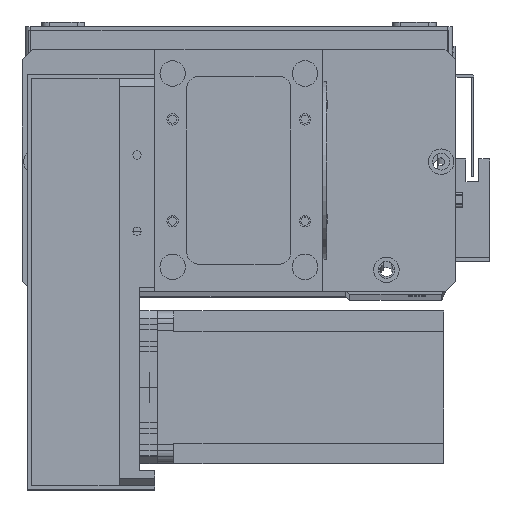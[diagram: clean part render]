
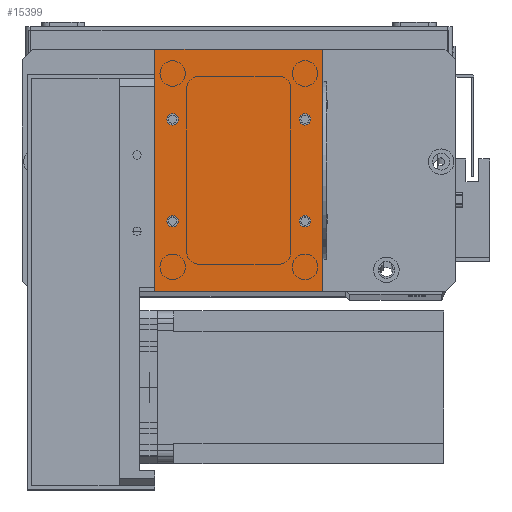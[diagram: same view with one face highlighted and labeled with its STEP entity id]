
A CAD part, top view. The second image highlights one B-rep face of the part: STEP entity #15399.
In plain terms, the highlighted planar face has unit normal (0, 0, 1).
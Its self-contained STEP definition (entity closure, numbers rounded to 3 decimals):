
#21 = VECTOR ( 'NONE', #9652, 1000. ) ;
#411 = CARTESIAN_POINT ( 'NONE',  ( 61.25, 67.5, 2. ) ) ;
#609 = CIRCLE ( 'NONE', #27779, 2.25 ) ;
#1104 = DIRECTION ( 'NONE',  ( 1., 0., 0. ) ) ;
#1213 = AXIS2_PLACEMENT_3D ( 'NONE', #31543, #16811, #1908 ) ;
#1284 = EDGE_CURVE ( 'NONE', #21014, #2072, #19991, .T. ) ;
#1378 = EDGE_LOOP ( 'NONE', ( #21991, #8370 ) ) ;
#1578 = CIRCLE ( 'NONE', #26634, 2.25 ) ;
#1908 = DIRECTION ( 'NONE',  ( 1., 0., 0. ) ) ;
#2072 = VERTEX_POINT ( 'NONE', #28145 ) ;
#2446 = VERTEX_POINT ( 'NONE', #411 ) ;
#3023 = DIRECTION ( 'NONE',  ( 0., 0., 1. ) ) ;
#3142 = CIRCLE ( 'NONE', #10236, 2.25 ) ;
#3192 = EDGE_CURVE ( 'NONE', #22847, #13835, #23329, .T. ) ;
#3842 = EDGE_CURVE ( 'NONE', #26094, #21014, #12825, .T. ) ;
#4010 = EDGE_CURVE ( 'NONE', #2446, #29409, #15547, .T. ) ;
#4050 = FACE_OUTER_BOUND ( 'NONE', #23702, .T. ) ;
#4071 = CARTESIAN_POINT ( 'NONE',  ( 56.75, 67.5, 2. ) ) ;
#4470 = VERTEX_POINT ( 'NONE', #19883 ) ;
#4764 = CARTESIAN_POINT ( 'NONE',  ( 9.25, 27.5, 2. ) ) ;
#4771 = DIRECTION ( 'NONE',  ( 1., 0., 0. ) ) ;
#4848 = FACE_BOUND ( 'NONE', #29404, .T. ) ;
#4977 = CARTESIAN_POINT ( 'NONE',  ( 59., 27.5, 2. ) ) ;
#5111 = CARTESIAN_POINT ( 'NONE',  ( 66., 0., 2. ) ) ;
#5209 = DIRECTION ( 'NONE',  ( 0., 1., 0. ) ) ;
#7368 = AXIS2_PLACEMENT_3D ( 'NONE', #27075, #12283, #29560 ) ;
#7465 = DIRECTION ( 'NONE',  ( 1., 0., 0. ) ) ;
#7639 = CIRCLE ( 'NONE', #7368, 2.25 ) ;
#8370 = ORIENTED_EDGE ( 'NONE', *, *, #19540, .F. ) ;
#8399 = ORIENTED_EDGE ( 'NONE', *, *, #1284, .T. ) ;
#8583 = CARTESIAN_POINT ( 'NONE',  ( 7., 67.5, 2. ) ) ;
#8795 = EDGE_CURVE ( 'NONE', #29409, #2446, #7639, .T. ) ;
#9006 = CIRCLE ( 'NONE', #17709, 2.25 ) ;
#9459 = VERTEX_POINT ( 'NONE', #9837 ) ;
#9652 = DIRECTION ( 'NONE',  ( 0., -1., 0. ) ) ;
#9837 = CARTESIAN_POINT ( 'NONE',  ( 4.75, 67.5, 2. ) ) ;
#10236 = AXIS2_PLACEMENT_3D ( 'NONE', #8583, #25922, #11115 ) ;
#10301 = CARTESIAN_POINT ( 'NONE',  ( 59., 27.5, 2. ) ) ;
#10430 = ORIENTED_EDGE ( 'NONE', *, *, #30573, .T. ) ;
#10688 = FACE_BOUND ( 'NONE', #12104, .T. ) ;
#11004 = AXIS2_PLACEMENT_3D ( 'NONE', #17974, #3023, #20434 ) ;
#11115 = DIRECTION ( 'NONE',  ( 1., 0., 0. ) ) ;
#11311 = DIRECTION ( 'NONE',  ( 0., 0., 1. ) ) ;
#11343 = VERTEX_POINT ( 'NONE', #19929 ) ;
#11952 = ORIENTED_EDGE ( 'NONE', *, *, #27308, .F. ) ;
#12104 = EDGE_LOOP ( 'NONE', ( #30924, #11952 ) ) ;
#12283 = DIRECTION ( 'NONE',  ( 0., 0., 1. ) ) ;
#12819 = DIRECTION ( 'NONE',  ( 1., 0., 0. ) ) ;
#12825 = LINE ( 'NONE', #19594, #31759 ) ;
#12872 = CARTESIAN_POINT ( 'NONE',  ( 0., 95., 2. ) ) ;
#13355 = VECTOR ( 'NONE', #5209, 1000. ) ;
#13550 = CIRCLE ( 'NONE', #23030, 2.25 ) ;
#13835 = VERTEX_POINT ( 'NONE', #18245 ) ;
#14504 = CARTESIAN_POINT ( 'NONE',  ( 56.75, 27.5, 2. ) ) ;
#15399 = ADVANCED_FACE ( 'NONE', ( #4848, #17342, #10688, #30418, #4050 ), #29620, .F. ) ;
#15504 = CARTESIAN_POINT ( 'NONE',  ( 61.25, 27.5, 2. ) ) ;
#15547 = CIRCLE ( 'NONE', #11004, 2.25 ) ;
#15870 = ORIENTED_EDGE ( 'NONE', *, *, #21285, .F. ) ;
#15899 = CARTESIAN_POINT ( 'NONE',  ( 0., 0., 2. ) ) ;
#16006 = DIRECTION ( 'NONE',  ( 0., 0., 1. ) ) ;
#16283 = ORIENTED_EDGE ( 'NONE', *, *, #22536, .F. ) ;
#16811 = DIRECTION ( 'NONE',  ( 0., 0., 1. ) ) ;
#17065 = ORIENTED_EDGE ( 'NONE', *, *, #18410, .T. ) ;
#17342 = FACE_BOUND ( 'NONE', #26697, .T. ) ;
#17380 = DIRECTION ( 'NONE',  ( -1., 0., 0. ) ) ;
#17709 = AXIS2_PLACEMENT_3D ( 'NONE', #26082, #11311, #28580 ) ;
#17974 = CARTESIAN_POINT ( 'NONE',  ( 59., 67.5, 2. ) ) ;
#18245 = CARTESIAN_POINT ( 'NONE',  ( 4.75, 27.5, 2. ) ) ;
#18410 = EDGE_CURVE ( 'NONE', #2072, #11343, #27915, .T. ) ;
#19540 = EDGE_CURVE ( 'NONE', #13835, #22847, #13550, .T. ) ;
#19562 = CARTESIAN_POINT ( 'NONE',  ( 0., 0., 2. ) ) ;
#19594 = CARTESIAN_POINT ( 'NONE',  ( 0., 0., 2. ) ) ;
#19877 = LINE ( 'NONE', #19562, #21 ) ;
#19883 = CARTESIAN_POINT ( 'NONE',  ( 9.25, 67.5, 2. ) ) ;
#19929 = CARTESIAN_POINT ( 'NONE',  ( 0., 95., 2. ) ) ;
#19991 = LINE ( 'NONE', #5111, #13355 ) ;
#20434 = DIRECTION ( 'NONE',  ( 1., 0., 0. ) ) ;
#21014 = VERTEX_POINT ( 'NONE', #24643 ) ;
#21285 = EDGE_CURVE ( 'NONE', #9459, #4470, #9006, .T. ) ;
#21991 = ORIENTED_EDGE ( 'NONE', *, *, #3192, .F. ) ;
#22104 = VERTEX_POINT ( 'NONE', #14504 ) ;
#22333 = DIRECTION ( 'NONE',  ( 0., 0., 1. ) ) ;
#22536 = EDGE_CURVE ( 'NONE', #4470, #9459, #3142, .T. ) ;
#22847 = VERTEX_POINT ( 'NONE', #4764 ) ;
#23030 = AXIS2_PLACEMENT_3D ( 'NONE', #30754, #16006, #1104 ) ;
#23329 = CIRCLE ( 'NONE', #1213, 2.25 ) ;
#23391 = EDGE_CURVE ( 'NONE', #25498, #22104, #1578, .T. ) ;
#23702 = EDGE_LOOP ( 'NONE', ( #10430, #31015, #8399, #17065 ) ) ;
#24508 = ORIENTED_EDGE ( 'NONE', *, *, #4010, .F. ) ;
#24643 = CARTESIAN_POINT ( 'NONE',  ( 66., 0., 2. ) ) ;
#24675 = CARTESIAN_POINT ( 'NONE',  ( 0., 0., 2. ) ) ;
#25498 = VERTEX_POINT ( 'NONE', #15504 ) ;
#25610 = AXIS2_PLACEMENT_3D ( 'NONE', #24675, #32113, #17380 ) ;
#25922 = DIRECTION ( 'NONE',  ( 0., 0., 1. ) ) ;
#26082 = CARTESIAN_POINT ( 'NONE',  ( 7., 67.5, 2. ) ) ;
#26094 = VERTEX_POINT ( 'NONE', #15899 ) ;
#26634 = AXIS2_PLACEMENT_3D ( 'NONE', #4977, #22333, #7465 ) ;
#26697 = EDGE_LOOP ( 'NONE', ( #24508, #31274 ) ) ;
#27075 = CARTESIAN_POINT ( 'NONE',  ( 59., 67.5, 2. ) ) ;
#27139 = VECTOR ( 'NONE', #30168, 1000. ) ;
#27308 = EDGE_CURVE ( 'NONE', #22104, #25498, #609, .T. ) ;
#27604 = DIRECTION ( 'NONE',  ( 0., 0., 1. ) ) ;
#27779 = AXIS2_PLACEMENT_3D ( 'NONE', #10301, #27604, #12819 ) ;
#27915 = LINE ( 'NONE', #12872, #27139 ) ;
#28145 = CARTESIAN_POINT ( 'NONE',  ( 66., 95., 2. ) ) ;
#28580 = DIRECTION ( 'NONE',  ( 1., 0., 0. ) ) ;
#29404 = EDGE_LOOP ( 'NONE', ( #16283, #15870 ) ) ;
#29409 = VERTEX_POINT ( 'NONE', #4071 ) ;
#29560 = DIRECTION ( 'NONE',  ( 1., 0., 0. ) ) ;
#29620 = PLANE ( 'NONE',  #25610 ) ;
#30168 = DIRECTION ( 'NONE',  ( -1., 0., 0. ) ) ;
#30418 = FACE_BOUND ( 'NONE', #1378, .T. ) ;
#30573 = EDGE_CURVE ( 'NONE', #11343, #26094, #19877, .T. ) ;
#30754 = CARTESIAN_POINT ( 'NONE',  ( 7., 27.5, 2. ) ) ;
#30924 = ORIENTED_EDGE ( 'NONE', *, *, #23391, .F. ) ;
#31015 = ORIENTED_EDGE ( 'NONE', *, *, #3842, .T. ) ;
#31274 = ORIENTED_EDGE ( 'NONE', *, *, #8795, .F. ) ;
#31543 = CARTESIAN_POINT ( 'NONE',  ( 7., 27.5, 2. ) ) ;
#31759 = VECTOR ( 'NONE', #4771, 1000. ) ;
#32113 = DIRECTION ( 'NONE',  ( 0., 0., -1. ) ) ;
